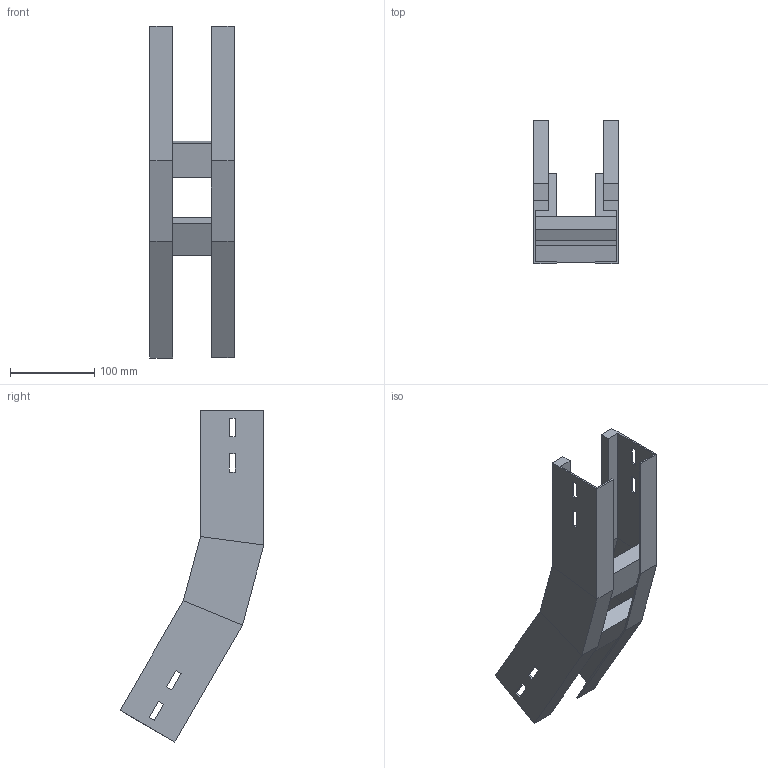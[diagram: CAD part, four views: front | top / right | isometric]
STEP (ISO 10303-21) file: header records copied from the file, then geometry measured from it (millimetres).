
FILE_DESCRIPTION (( 'STEP AP214' ), '1' );
FILE_NAME ('A2X32B3C100XX.step', '2025-03-20T10:01:20', ( '' ), ( '' ), 'SwSTEP 2.0', 'SolidWorks 2023', '' );
FILE_SCHEMA (( 'AUTOMOTIVE_DESIGN' ));
Length unit declared in the file: millimetre
Products named in the file (3): A2X32B3C100XX; TRAVERSINO_100; LONGH.SALITA_30°_H75_R300
Assembly tree (4 placements, depth 2):
  A2X32B3C100XX
    LONGH.SALITA_30°_H75_R300  x2
    TRAVERSINO_100  x2
Bounding box: 100 x 170.24 x 392.95 mm (x, y, z)
Volume: 460602.7 mm3; surface area: 215197.9 mm2
Topology: 4 solids, 4 shells, 96 faces, 232 edges, 144 vertices
Faces by surface type: plane 96
Entity records: 1472 total; most frequent: CARTESIAN_POINT 243, ORIENTED_EDGE 232, DIRECTION 226, EDGE_CURVE 116, LINE 116, VECTOR 116, VERTEX_POINT 72, EDGE_LOOP 56
